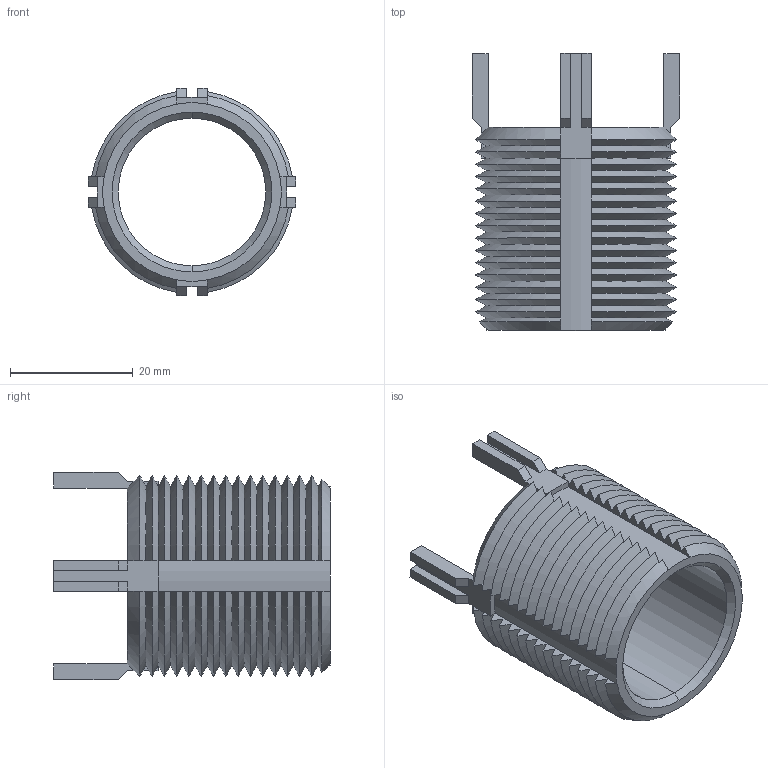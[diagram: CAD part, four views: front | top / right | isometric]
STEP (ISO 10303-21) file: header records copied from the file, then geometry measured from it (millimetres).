
FILE_DESCRIPTION (( 'STEP AP203' ), '1' );
FILE_NAME ('22002.W5751.step', '2020-01-04T21:38:05', ( '' ), ( '' ), 'SwSTEP 2.0', 'SolidWorks 2017', '' );
FILE_SCHEMA (( 'CONFIG_CONTROL_DESIGN' ));
Length unit declared in the file: millimetre
Products named in the file (1): 22002.W5751
Bounding box: 33.77 x 45 x 33.77 mm (x, y, z)
Volume: 10099.2 mm3; surface area: 9665.1 mm2
Topology: 1 solids, 1 shells, 228 faces, 610 edges, 384 vertices
Faces by surface type: cone 132, plane 90, cylinder 6
Entity records: 8119 total; most frequent: CARTESIAN_POINT 2819, ORIENTED_EDGE 1220, DIRECTION 928, EDGE_CURVE 610, VERTEX_POINT 384, AXIS2_PLACEMENT_3D 377, B_SPLINE_CURVE_WITH_KNOTS 288, EDGE_LOOP 230
